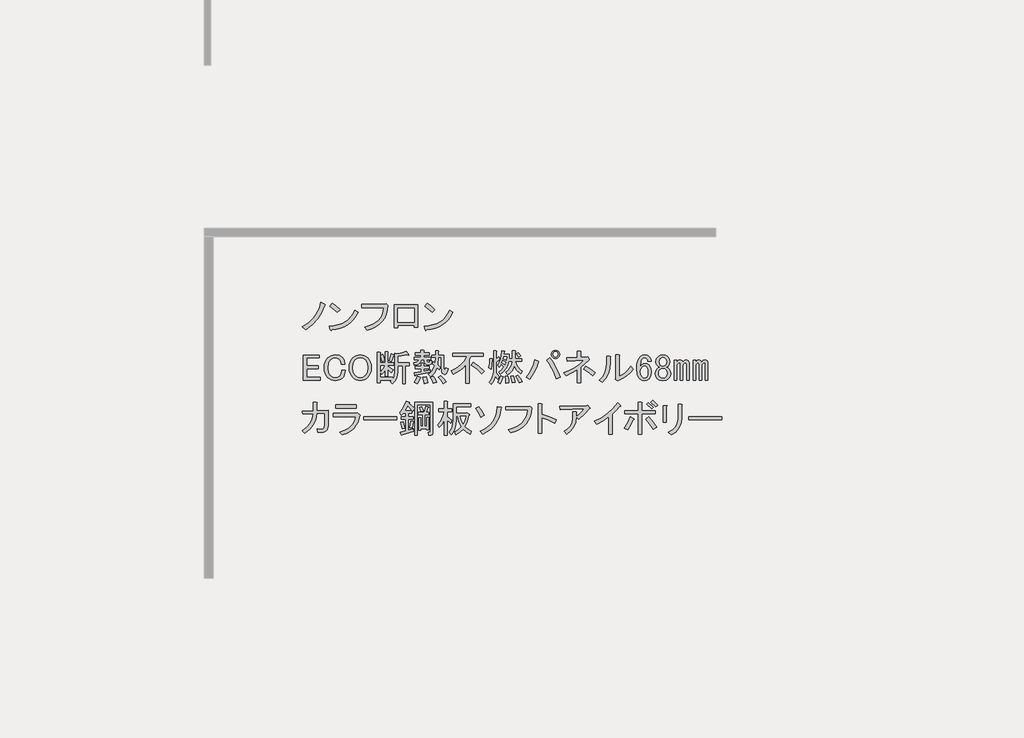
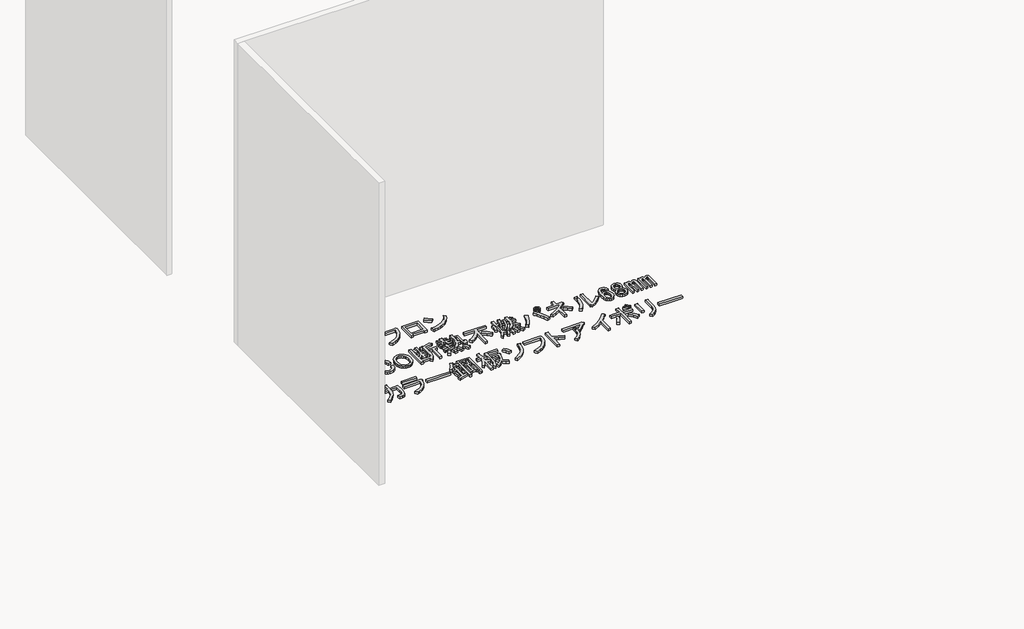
# One storey, part 92 of 117: 1 proxy.
"""IFC4 building model written with IfcOpenShell, lengths in millimetres."""

from ifc_helpers import new_model, si_unit, frame, origin, place, context, project, spatial, polyline, outline, extrude, element, save

model = new_model("IFC4")

# Units and contexts
model_context = context("Model", 3, world=origin())
ifc_project = project(units=[si_unit("LENGTHUNIT", "METRE", prefix="MILLI")], contexts=[model_context])

# Site, building, storey
site = spatial("IfcSite", under=ifc_project)
building = spatial("IfcBuilding", under=site)
storey = spatial("IfcBuildingStorey", under=building, Name="レベル 1", Elevation=500.0)

# Proxy
placement = place(None, origin())
element("IfcBuildingElementProxy", 1, Name="200㎜\u3000MS Pゴシック", ObjectType="200㎜\u3000MS Pゴシック", at=placement, inside=storey, context=model_context, shape_type="SweptSolid", body=[
    extrude(outline(polyline([(24939.1706985, 3397.4503118), (24913.5952502, 3337.6784775), (24885.146156, 3291.7001434), (24843.4782907, 3246.2965385), (24794.3389462, 3208.939142), (24766.7519457, 3230.7788507), (24814.4544673, 3261.2394971), (24854.1107805, 3299.7463519), (24871.4963381, 3323.6694538), (24886.8703435, 3351.7593423), (24900.2327969, 3384.0160173), (24911.5836981, 3420.4394788), (24942.6190736, 3406.6459786), (24945.7800841, 3402.0481452), (24939.1706985, 3397.4503118)])), frame((0.0, 0.0, 500.0), z_axis=(0.0, 0.0, 1.0), x_axis=(1.0, 0.0, 0.0)), (0.0, 0.0, 1.0), 25.0),
    extrude(outline(polyline([(25038.8977052, 3342.2763109), (24980.2753292, 3389.4041033), (24999.8161212, 3413.5427287), (25027.1157571, 3393.7145721), (25060.7374138, 3364.1160196), (25038.8977052, 3342.2763109)])), frame((0.0, 0.0, 500.0), z_axis=(0.0, 0.0, 1.0), x_axis=(1.0, 0.0, 0.0)), (0.0, 0.0, 1.0), 25.0),
    extrude(outline(polyline([(25200.9713328, 3342.2763109), (25184.447869, 3312.534076), (25165.3381239, 3286.5275808), (25143.6420975, 3264.2568252), (25119.3597898, 3245.7218093), (25092.4912008, 3230.922533), (25063.0363306, 3219.8589964), (25030.995179, 3212.5311994), (24996.3677461, 3208.939142), (24990.6204544, 3200.8929336), (24984.8731626, 3206.6402253), (24975.6774958, 3236.5261425), (25011.5082679, 3239.2022252), (25044.2857912, 3245.5062859), (25074.0100658, 3255.4383244), (25100.6810916, 3268.9983409), (25124.2988687, 3286.1863354), (25144.863397, 3307.0023077), (25162.3746766, 3331.446258), (25176.8327074, 3359.5181862), (25200.9713328, 3342.2763109)])), frame((0.0, 0.0, 500.0), z_axis=(0.0, 0.0, 1.0), x_axis=(1.0, 0.0, 0.0)), (0.0, 0.0, 1.0), 25.0),
    extrude(outline(polyline([(25251.7314136, 3227.3304757), (25285.514713, 3237.0110702), (25315.0234641, 3249.3857078), (25340.257667, 3264.4543884), (25361.2173217, 3282.217112), (25377.902428, 3302.6738786), (25390.3129862, 3325.8246882), (25398.4489961, 3351.6695409), (25402.3104577, 3380.2084365), (25229.8917049, 3380.2084365), (25229.8917049, 3405.4965202), (25404.6093744, 3405.4965202), (25420.7017914, 3408.9448953), (25433.3458332, 3397.4503118), (25429.825617, 3360.9550091), (25421.5638851, 3327.9080815), (25408.5606375, 3298.3095289), (25390.8158742, 3272.1593514), (25368.3295952, 3249.457549), (25341.1018005, 3230.2041216), (25309.1324901, 3214.3990692), (25272.421664, 3202.0423919), (25251.7314136, 3227.3304757)])), frame((0.0, 0.0, 500.0), z_axis=(0.0, 0.0, 1.0), x_axis=(1.0, 0.0, 0.0)), (0.0, 0.0, 1.0), 25.0),
    extrude(outline(polyline([(25666.455987, 3228.479934), (25640.0184449, 3228.479934), (25640.0184449, 3241.1239759), (25512.4285679, 3241.1239759), (25512.4285679, 3222.7326423), (25485.9910258, 3222.7326423), (25485.9910258, 3402.0481452), (25666.455987, 3402.0481452), (25666.455987, 3228.479934)]), holes=[polyline([(25512.4285679, 3376.7600614), (25512.4285679, 3266.4120596), (25640.0184449, 3266.4120596), (25640.0184449, 3376.7600614), (25512.4285679, 3376.7600614)])]), frame((0.0, 0.0, 500.0), z_axis=(0.0, 0.0, 1.0), x_axis=(1.0, 0.0, 0.0)), (0.0, 0.0, 1.0), 25.0),
    extrude(outline(polyline([(25942.5099049, 3342.2763109), (25925.9864411, 3312.534076), (25906.876696, 3286.5275808), (25885.1806696, 3264.2568252), (25860.8983619, 3245.7218093), (25834.0297729, 3230.922533), (25804.5749026, 3219.8589964), (25772.5337511, 3212.5311994), (25737.9063182, 3208.939142), (25732.1590264, 3200.8929336), (25726.4117347, 3206.6402253), (25717.2160679, 3236.5261425), (25753.0468399, 3239.2022252), (25785.8243633, 3245.5062859), (25815.5486378, 3255.4383244), (25842.2196637, 3268.9983409), (25865.8374407, 3286.1863354), (25886.4019691, 3307.0023077), (25903.9132486, 3331.446258), (25918.3712795, 3359.5181862), (25942.5099049, 3342.2763109)])), frame((0.0, 0.0, 500.0), z_axis=(0.0, 0.0, 1.0), x_axis=(1.0, 0.0, 0.0)), (0.0, 0.0, 1.0), 25.0),
    extrude(outline(polyline([(25780.4362772, 3342.2763109), (25721.8139013, 3389.4041033), (25741.3546933, 3413.5427287), (25768.6543291, 3393.7145721), (25802.2759859, 3364.1160196), (25780.4362772, 3342.2763109)])), frame((0.0, 0.0, 500.0), z_axis=(0.0, 0.0, 1.0), x_axis=(1.0, 0.0, 0.0)), (0.0, 0.0, 1.0), 25.0),
    extrude(outline(polyline([(24772.4992375, 3008.9448953), (24898.9396562, 3008.9448953), (24898.9396562, 2987.1051866), (24798.9367796, 2987.1051866), (24798.9367796, 2926.183894), (24892.0429061, 2926.183894), (24892.0429061, 2904.3441853), (24798.9367796, 2904.3441853), (24798.9367796, 2834.2272258), (24904.686948, 2834.2272258), (24904.686948, 2812.3875171), (24772.4992375, 2812.3875171), (24772.4992375, 3008.9448953)])), frame((0.0, 0.0, 500.0), z_axis=(0.0, 0.0, 1.0), x_axis=(1.0, 0.0, 0.0)), (0.0, 0.0, 1.0), 25.0),
    extrude(outline(polyline([(24936.7798252, 2910.091477), (24938.5758538, 2934.014579), (24943.9639399, 2955.2077173), (24952.9440832, 2973.6708921), (24965.516284, 2989.4041033), (24990.5170031, 3005.7838848), (25021.8397432, 3011.243812), (25052.5877541, 3006.358614), (25075.8642858, 2991.70302), (25091.6693381, 2968.1391238), (25097.7039944, 2938.8279358), (25070.116994, 2938.8279358), (25065.231796, 2960.0929153), (25055.1740354, 2975.6106031), (25039.9437123, 2985.9557283), (25021.8397432, 2989.4041033), (25002.2989512, 2985.3809991), (24985.0570759, 2973.3116864), (24976.0050914, 2961.6015794), (24969.5393882, 2947.1615089), (24964.3668256, 2910.091477), (24969.5393882, 2873.0214452), (24976.0050914, 2858.5813746), (24985.0570759, 2846.8712677), (25001.7242221, 2835.6640487), (25021.8397432, 2831.9283091), (25042.242629, 2835.0893196), (25057.4729521, 2844.572351), (25069.5422648, 2864.1131429), (25073.5653691, 2890.550685), (25101.1523695, 2890.550685), (25094.8303486, 2855.7795699), (25087.7899162, 2841.6268639), (25078.1632025, 2829.6293924), (25067.3151893, 2821.0802959), (25054.3119417, 2814.9737984), (25021.8397432, 2810.0886004), (24990.5170031, 2815.5485276), (24965.516284, 2831.9283091), (24952.9440832, 2847.5896791), (24943.9639399, 2865.8373305), (24938.5758538, 2886.6712631), (24936.7798252, 2910.091477)])), frame((0.0, 0.0, 500.0), z_axis=(0.0, 0.0, 1.0), x_axis=(1.0, 0.0, 0.0)), (0.0, 0.0, 1.0), 25.0),
    extrude(outline(polyline([(25132.1417667, 2911.2409354), (25133.8659542, 2934.0864201), (25139.0385168, 2954.3456236), (25147.6594544, 2972.0185457), (25159.7287671, 2987.1051866), (25172.4446501, 2997.6658352), (25186.4536738, 3005.2091557), (25201.7558381, 3009.7351479), (25218.3511431, 3011.243812), (25234.946448, 3009.7351479), (25250.2486123, 3005.2091557), (25264.257636, 2997.6658352), (25276.973519, 2987.1051866), (25289.0428317, 2972.0185457), (25297.6637694, 2954.3456236), (25302.836332, 2934.0864201), (25304.5605195, 2911.2409354), (25302.836332, 2888.3954506), (25297.6637694, 2868.1362472), (25289.0428317, 2850.463325), (25276.973519, 2835.3766841), (25264.257636, 2824.8160355), (25250.2486123, 2817.2727151), (25234.946448, 2812.7467228), (25218.3511431, 2811.2380587), (25201.7558381, 2812.7467228), (25186.4536738, 2817.2727151), (25172.4446501, 2824.8160355), (25159.7287671, 2835.3766841), (25147.6594544, 2850.463325), (25139.0385168, 2868.1362472), (25133.8659542, 2888.3954506), (25132.1417667, 2911.2409354)]), holes=[polyline([(25218.3511431, 2989.4041033), (25197.6608927, 2985.0936345), (25179.2695591, 2972.162228), (25170.7204626, 2961.0268502), (25164.6139651, 2947.1615089), (25159.7287671, 2911.2409354), (25164.6139651, 2875.3203619), (25170.7204626, 2861.4550205), (25179.2695591, 2850.3196427), (25197.6608927, 2837.3882363), (25218.3511431, 2833.0777674), (25239.0413934, 2837.3882363), (25257.432727, 2850.3196427), (25265.9818235, 2861.4550205), (25272.088321, 2875.3203619), (25276.973519, 2911.2409354), (25272.088321, 2947.1615089), (25265.9818235, 2961.0268502), (25257.432727, 2972.162228), (25239.0413934, 2985.0936345), (25218.3511431, 2989.4041033)])]), frame((0.0, 0.0, 500.0), z_axis=(0.0, 0.0, 1.0), x_axis=(1.0, 0.0, 0.0)), (0.0, 0.0, 1.0), 25.0),
    extrude(outline(polyline([(25443.3691101, 2965.2654779), (25460.6109854, 3018.1405621), (25481.3012357, 3012.3932704), (25483.0254232, 3009.2322599), (25479.002319, 3006.6459786), (25461.7604437, 2958.3687278), (25443.3691101, 2965.2654779)])), frame((0.0, 0.0, 500.0), z_axis=(0.0, 0.0, 1.0), x_axis=(1.0, 0.0, 0.0)), (0.0, 0.0, 1.0), 25.0),
    extrude(outline(polyline([(25597.3965292, 3013.5427287), (25595.6723417, 3008.9448953), (25588.2008624, 3011.243812), (25511.1871528, 2998.5997701), (25511.1871528, 2949.173061), (25603.143821, 2949.173061), (25603.143821, 2927.3333523), (25572.1084455, 2927.3333523), (25572.1084455, 2787.0994334), (25549.1192785, 2787.0994334), (25549.1192785, 2927.3333523), (25511.1871528, 2927.3333523), (25511.1871528, 2877.9066432), (25508.6008716, 2850.1041193), (25500.8420277, 2825.3189236), (25487.9106212, 2803.551056), (25469.8066522, 2784.8005167), (25452.5647769, 2804.3413086), (25462.9099021, 2813.5369755), (25373.2521506, 2813.5369755), (25373.2521506, 2791.6972668), (25350.2629836, 2791.6972668), (25350.2629836, 3030.784604), (25372.1026922, 3030.784604), (25376.9878902, 3028.4856873), (25373.2521506, 3023.8878539), (25373.2521506, 2948.0236026), (25415.7821096, 2948.0236026), (25415.7821096, 3035.3824374), (25434.1734433, 3035.3824374), (25439.0586413, 3033.0835207), (25435.3229016, 3028.4856873), (25435.3229016, 2948.0236026), (25479.002319, 2948.0236026), (25479.002319, 2929.632269), (25435.3229016, 2929.632269), (25435.3229016, 2920.4366022), (25475.5539439, 2893.9990601), (25461.7604437, 2872.1593514), (25435.3229016, 2898.5968935), (25435.3229016, 2845.7218093), (25415.7821096, 2845.7218093), (25415.7821096, 2893.9990601), (25402.5633386, 2874.1709035), (25388.1951092, 2858.3658512), (25375.5510673, 2876.7571848), (25397.390776, 2900.8958102), (25414.6326513, 2929.632269), (25373.2521506, 2929.632269), (25373.2521506, 2835.3766841), (25470.9561105, 2835.3766841), (25470.9561105, 2821.5831839), (25483.887517, 2845.7218093), (25488.1979858, 2879.0561015), (25488.1979858, 3023.8878539), (25510.0376945, 3018.1405621), (25546.2456326, 3025.6120414), (25576.7062789, 3038.8308125), (25597.3965292, 3013.5427287)])), frame((0.0, 0.0, 500.0), z_axis=(0.0, 0.0, 1.0), x_axis=(1.0, 0.0, 0.0)), (0.0, 0.0, 1.0), 25.0),
    extrude(outline(polyline([(25389.3445675, 2957.2192695), (25376.7005257, 3007.7954369), (25396.2413176, 3014.6921871), (25404.0001615, 2990.5535617), (25408.8853595, 2964.1160196), (25389.3445675, 2957.2192695)])), frame((0.0, 0.0, 500.0), z_axis=(0.0, 0.0, 1.0), x_axis=(1.0, 0.0, 0.0)), (0.0, 0.0, 1.0), 25.0),
    extrude(outline(polyline([(25733.0326148, 2841.1239759), (25743.0903754, 2813.82434), (25747.9755734, 2791.6972668), (25719.2391146, 2785.949975), (25716.6528333, 2807.5023191), (25708.8939894, 2837.6756008), (25733.0326148, 2841.1239759)])), frame((0.0, 0.0, 500.0), z_axis=(0.0, 0.0, 1.0), x_axis=(1.0, 0.0, 0.0)), (0.0, 0.0, 1.0), 25.0),
    extrude(outline(polyline([(25789.356074, 2788.2488917), (25781.022501, 2812.9622463), (25767.5163654, 2834.2272258), (25788.2066157, 2842.2734343), (25805.1611264, 2820.7210902), (25816.9430745, 2797.4445585), (25789.356074, 2788.2488917)])), frame((0.0, 0.0, 500.0), z_axis=(0.0, 0.0, 1.0), x_axis=(1.0, 0.0, 0.0)), (0.0, 0.0, 1.0), 25.0),
    extrude(outline(polyline([(25688.2037391, 2836.5261425), (25691.6521141, 2831.6409445), (25685.9048224, 2828.479934), (25676.1344264, 2802.9044857), (25665.214572, 2783.6510583), (25642.225405, 2795.1456418), (25654.8694469, 2818.709538), (25665.214572, 2845.7218093), (25688.2037391, 2836.5261425)])), frame((0.0, 0.0, 500.0), z_axis=(0.0, 0.0, 1.0), x_axis=(1.0, 0.0, 0.0)), (0.0, 0.0, 1.0), 25.0),
    extrude(outline(polyline([(25720.3885729, 2973.3116864), (25695.1004892, 2973.3116864), (25690.5026558, 2955.8542877), (25680.1575306, 2942.5636755), (25664.0651137, 2933.4398498), (25642.225405, 2928.4828107), (25637.6275716, 2948.0236026), (25662.9156553, 2956.6445403), (25670.3871346, 2963.9723373), (25674.4102388, 2973.3116864), (25638.7770299, 2973.3116864), (25638.7770299, 2991.70302), (25692.8015725, 2991.70302), (25692.8015725, 3008.9448953), (25649.1221551, 3008.9448953), (25649.1221551, 3027.3362289), (25692.8015725, 3027.3362289), (25692.8015725, 3045.7275626), (25714.6412812, 3045.7275626), (25719.5264792, 3043.4286459), (25715.7907395, 3038.8308125), (25715.7907395, 3027.3362289), (25758.3206985, 3027.3362289), (25758.3206985, 3008.9448953), (25715.7907395, 3008.9448953), (25715.7907395, 2991.70302), (25768.6658237, 2991.70302), (25768.6658237, 2973.3116864), (25739.9293649, 2973.3116864), (25739.9293649, 2960.6676445), (25741.3661878, 2955.4950819), (25745.6766567, 2953.7708944), (25756.0217818, 2953.7708944), (25759.7575215, 2956.9319049), (25759.4701569, 2966.4149363), (25779.0109489, 2964.1160196), (25776.137303, 2942.5636755), (25770.8210581, 2937.1755894), (25762.9185319, 2935.3795608), (25738.7799066, 2935.3795608), (25724.9864063, 2940.2647588), (25720.3885729, 2954.9203528), (25720.3885729, 2973.3116864)])), frame((0.0, 0.0, 500.0), z_axis=(0.0, 0.0, 1.0), x_axis=(1.0, 0.0, 0.0)), (0.0, 0.0, 1.0), 25.0),
    extrude(outline(polyline([(25851.4268251, 2990.5535617), (25829.5871164, 2990.5535617), (25824.989283, 2933.0806441), (25844.5300749, 2914.6893104), (25834.1849498, 2892.8496017), (25818.0925328, 2908.9420187), (25798.8391054, 2871.2972576), (25768.6658237, 2838.8250592), (25751.4239484, 2859.5153095), (25766.5105893, 2871.4409399), (25779.585678, 2886.5275808), (25790.6492147, 2904.7752321), (25799.7011992, 2926.183894), (25782.4593239, 2941.1268525), (25790.5055324, 2958.3687278), (25804.2990326, 2948.0236026), (25806.5979493, 2990.5535617), (25779.0109489, 2990.5535617), (25779.0109489, 3008.9448953), (25806.5979493, 3008.9448953), (25806.5979493, 3043.4286459), (25828.437658, 3043.4286459), (25833.322856, 3041.1297292), (25829.5871164, 3036.5318957), (25829.5871164, 3008.9448953), (25870.967617, 3008.9448953), (25870.967617, 2912.3903937), (25874.4159921, 2888.2517683), (25877.6488437, 2886.2402162), (25880.4506484, 2889.4012267), (25884.7611173, 2911.2409354), (25904.3019092, 2904.3441853), (25899.775917, 2877.5474374), (25891.945232, 2861.5268616), (25880.8098542, 2856.2824579), (25866.3697836, 2861.8142262), (25859.8322393, 2869.1420232), (25855.1625647, 2880.780289), (25851.4268251, 2916.9882271), (25851.4268251, 2990.5535617)])), frame((0.0, 0.0, 500.0), z_axis=(0.0, 0.0, 1.0), x_axis=(1.0, 0.0, 0.0)), (0.0, 0.0, 1.0), 25.0),
    extrude(outline(polyline([(25650.2716134, 2851.4691011), (25648.2600613, 2846.5839031), (25644.5243217, 2848.020726), (25638.7770299, 2872.1593514), (25693.9510308, 2880.2055599), (25693.9510308, 2903.1947269), (25650.2716134, 2903.1947269), (25650.2716134, 2921.5860605), (25693.9510308, 2921.5860605), (25693.9510308, 2944.5752276), (25712.3423645, 2944.5752276), (25717.2275625, 2942.2763109), (25713.4918228, 2937.6784775), (25713.4918228, 2921.5860605), (25758.3206985, 2921.5860605), (25758.3206985, 2903.1947269), (25713.4918228, 2903.1947269), (25713.4918228, 2883.6539349), (25764.0679903, 2892.8496017), (25764.0679903, 2876.7571848), (25650.2716134, 2851.4691011)])), frame((0.0, 0.0, 500.0), z_axis=(0.0, 0.0, 1.0), x_axis=(1.0, 0.0, 0.0)), (0.0, 0.0, 1.0), 25.0),
    extrude(outline(polyline([(25847.97845, 2846.8712677), (25872.6918046, 2825.6062881), (25891.6578674, 2800.8929336), (25865.2203253, 2785.949975), (25845.9668979, 2815.5485276), (25827.2881997, 2835.3766841), (25847.97845, 2846.8712677)])), frame((0.0, 0.0, 500.0), z_axis=(0.0, 0.0, 1.0), x_axis=(1.0, 0.0, 0.0)), (0.0, 0.0, 1.0), 25.0),
    extrude(outline(polyline([(26166.3784135, 2862.9636846), (26127.2968295, 2901.1831748), (26085.9163289, 2930.7817274), (26102.0087458, 2951.4719777), (26145.6881632, 2923.3102481), (26187.0686638, 2884.8033933), (26166.3784135, 2862.9636846)])), frame((0.0, 0.0, 500.0), z_axis=(0.0, 0.0, 1.0), x_axis=(1.0, 0.0, 0.0)), (0.0, 0.0, 1.0), 25.0),
    extrude(outline(polyline([(25939.9351182, 3023.8878539), (26181.3213721, 3023.8878539), (26181.3213721, 2998.5997701), (26081.3184955, 2998.5997701), (26070.9733703, 2974.4611447), (26070.9733703, 2788.2488917), (26044.5358282, 2788.2488917), (26044.5358282, 2935.3795608), (26023.7018956, 2912.1030291), (26000.2816816, 2891.7001434), (25974.2751864, 2874.1709035), (25945.6824099, 2859.5153095), (25929.589993, 2885.9528516), (25969.174465, 2906.3557374), (26002.8679629, 2931.9311857), (26030.6704868, 2962.6791966), (26052.5820367, 2998.5997701), (25939.9351182, 2998.5997701), (25939.9351182, 3023.8878539)])), frame((0.0, 0.0, 500.0), z_axis=(0.0, 0.0, 1.0), x_axis=(1.0, 0.0, 0.0)), (0.0, 0.0, 1.0), 25.0),
    extrude(outline(polyline([(26353.7401249, 2789.3983501), (26354.3148541, 2816.4106213), (26351.4412082, 2844.572351), (26370.9820002, 2845.7218093), (26377.3040211, 2819.5716318), (26377.8787503, 2791.6972668), (26353.7401249, 2789.3983501)])), frame((0.0, 0.0, 500.0), z_axis=(0.0, 0.0, 1.0), x_axis=(1.0, 0.0, 0.0)), (0.0, 0.0, 1.0), 25.0),
    extrude(outline(polyline([(26334.1993329, 2841.1239759), (26325.5783953, 2810.6633296), (26311.2101659, 2783.6510583), (26291.6693739, 2796.2951002), (26305.7502387, 2821.0084547), (26315.8079993, 2849.1701844), (26334.1993329, 2841.1239759)])), frame((0.0, 0.0, 500.0), z_axis=(0.0, 0.0, 1.0), x_axis=(1.0, 0.0, 0.0)), (0.0, 0.0, 1.0), 25.0),
    extrude(outline(polyline([(26249.1394149, 2979.0589781), (26253.7372483, 2976.7600614), (26249.1394149, 2972.162228), (26247.9899565, 2932.5059149), (26242.2426647, 2898.5968935), (26223.8513311, 2911.2409354), (26229.5986229, 2945.7246859), (26230.7480812, 2982.5073532), (26249.1394149, 2979.0589781)])), frame((0.0, 0.0, 500.0), z_axis=(0.0, 0.0, 1.0), x_axis=(1.0, 0.0, 0.0)), (0.0, 0.0, 1.0), 25.0),
    extrude(outline(polyline([(26300.8650407, 2997.4503118), (26310.0607075, 2980.2084365), (26311.4975305, 2974.1737801), (26306.6123325, 2974.4611447), (26280.1747904, 2953.7708944), (26280.1747904, 2869.8604347), (26293.9682906, 2857.5037574), (26305.4628741, 2841.1239759), (26292.8188322, 2820.4337256), (26274.4274986, 2845.7218093), (26262.6455505, 2809.8012358), (26241.0932064, 2780.2026832), (26226.1502478, 2798.5940169), (26241.2368887, 2817.3445562), (26252.0130607, 2837.9629654), (26258.478764, 2860.4492444), (26260.6339984, 2884.8033933), (26260.6339984, 3042.2791875), (26279.025332, 3042.2791875), (26283.91053, 3039.9802708), (26280.1747904, 3035.3824374), (26280.1747904, 2976.7600614), (26300.8650407, 2997.4503118)])), frame((0.0, 0.0, 500.0), z_axis=(0.0, 0.0, 1.0), x_axis=(1.0, 0.0, 0.0)), (0.0, 0.0, 1.0), 25.0),
    extrude(outline(polyline([(26451.4440848, 3028.4856873), (26473.2837935, 3004.3470619), (26456.0419182, 2992.8524784), (26449.4325327, 3004.3470619), (26436.5011262, 3018.1405621), (26451.4440848, 3028.4856873)])), frame((0.0, 0.0, 500.0), z_axis=(0.0, 0.0, 1.0), x_axis=(1.0, 0.0, 0.0)), (0.0, 0.0, 1.0), 25.0),
    extrude(outline(polyline([(26461.78921, 2791.6972668), (26448.5704389, 2819.8589964), (26431.9032928, 2844.572351), (26450.2946265, 2852.6185594), (26469.2606893, 2829.6293924), (26484.778377, 2802.0423919), (26461.78921, 2791.6972668)])), frame((0.0, 0.0, 500.0), z_axis=(0.0, 0.0, 1.0), x_axis=(1.0, 0.0, 0.0)), (0.0, 0.0, 1.0), 25.0),
    extrude(outline(polyline([(26412.3625008, 2846.8712677), (26430.7538345, 2797.4445585), (26406.6152091, 2792.8467251), (26392.8217089, 2843.4228926), (26412.3625008, 2846.8712677)])), frame((0.0, 0.0, 500.0), z_axis=(0.0, 0.0, 1.0), x_axis=(1.0, 0.0, 0.0)), (0.0, 0.0, 1.0), 25.0),
    extrude(outline(polyline([(26473.2837935, 2861.8142262), (26442.5357826, 2892.2748726), (26421.5581677, 2926.183894), (26413.1527535, 2904.0568207), (26401.7300111, 2884.8033933), (26387.2899405, 2868.4236118), (26369.8325418, 2854.9174761), (26356.0390416, 2873.3088098), (26376.8729742, 2892.2030314), (26392.2469797, 2913.2524875), (26402.161058, 2936.457178), (26406.6152091, 2961.8171029), (26377.8787503, 2961.8171029), (26369.904383, 2931.2127742), (26356.3264062, 2903.7694561), (26337.1448199, 2879.4871484), (26312.3596242, 2858.3658512), (26299.7155823, 2874.4582681), (26325.5783953, 2896.0106122), (26341.096083, 2916.9882271), (26319.2563743, 2936.5290191), (26305.4628741, 2915.8387688), (26291.6693739, 2930.7817274), (26304.0978923, 2949.8196313), (26313.7964472, 2974.7485093), (26320.7650384, 3005.5683614), (26325.0036661, 3042.2791875), (26345.6939164, 3039.9802708), (26349.1422915, 3037.3939895), (26343.3949997, 3034.232979), (26341.096083, 3015.8416454), (26384.7755004, 3015.8416454), (26381.3271253, 2980.2084365), (26406.6152091, 2980.2084365), (26406.6152091, 3042.2791875), (26428.4549178, 3042.2791875), (26433.3401158, 3039.9802708), (26429.6043761, 3035.3824374), (26429.6043761, 2980.2084365), (26479.0310853, 2980.2084365), (26479.0310853, 2961.8171029), (26429.6043761, 2961.8171029), (26436.1419205, 2940.0492353), (26447.7083452, 2919.5745084), (26464.3036501, 2900.3929222), (26485.9278354, 2882.5044766), (26473.2837935, 2861.8142262)]), holes=[polyline([(26349.1422915, 2931.9311857), (26356.0390416, 2951.4719777), (26330.7509579, 2967.5643946), (26325.0036661, 2950.3225193), (26349.1422915, 2931.9311857)]), polyline([(26338.7971663, 2997.4503118), (26335.3487913, 2981.3578948), (26360.636875, 2967.5643946), (26365.2347084, 2997.4503118), (26338.7971663, 2997.4503118)])]), frame((0.0, 0.0, 500.0), z_axis=(0.0, 0.0, 1.0), x_axis=(1.0, 0.0, 0.0)), (0.0, 0.0, 1.0), 25.0),
    extrude(outline(polyline([(26698.5776305, 2988.254645), (26725.230696, 2951.5438188), (26747.7169751, 2913.8272167), (26766.0364675, 2875.1048384), (26780.1891735, 2835.3766841), (26749.153798, 2825.031559), (26733.7079514, 2868.1362472), (26716.1068704, 2906.643102), (26696.350555, 2940.5521234), (26674.4390051, 2969.8633113), (26698.5776305, 2988.254645)])), frame((0.0, 0.0, 500.0), z_axis=(0.0, 0.0, 1.0), x_axis=(1.0, 0.0, 0.0)), (0.0, 0.0, 1.0), 25.0),
    extrude(outline(polyline([(26611.2187958, 2961.8171029), (26615.2419, 2956.3571757), (26608.919879, 2951.4719777), (26596.9942486, 2916.0542922), (26581.9076078, 2882.217112), (26563.6599564, 2849.960437), (26542.2512946, 2819.2842672), (26515.8137525, 2836.5261425), (26539.018443, 2867.9925649), (26558.056347, 2901.4705394), (26572.9274644, 2936.960066), (26583.6317953, 2974.4611447), (26611.2187958, 2961.8171029)])), frame((0.0, 0.0, 500.0), z_axis=(0.0, 0.0, 1.0), x_axis=(1.0, 0.0, 0.0)), (0.0, 0.0, 1.0), 25.0),
    extrude(outline(polyline([(26744.5559646, 2982.5073532), (26731.9119227, 2984.8062699), (26721.5667975, 2991.70302), (26714.6700474, 3002.0481452), (26712.3711307, 3014.6921871), (26714.6700474, 3027.3362289), (26721.5667975, 3037.6813541), (26731.9119227, 3044.5781042), (26744.5559646, 3046.8770209), (26757.2000065, 3044.5781042), (26767.5451316, 3037.6813541), (26774.4418817, 3027.3362289), (26776.7407984, 3014.6921871), (26774.4418817, 3002.0481452), (26767.5451316, 2991.70302), (26757.2000065, 2984.8062699), (26744.5559646, 2982.5073532)]), holes=[polyline([(26744.5559646, 2994.0019367), (26752.8895376, 2995.4387597), (26759.4989232, 2999.7492285), (26763.809392, 3006.358614), (26765.2462149, 3014.6921871), (26763.809392, 3023.0257601), (26759.4989232, 3029.6351456), (26752.8895376, 3033.9456145), (26744.5559646, 3035.3824374), (26736.2223915, 3033.9456145), (26729.613006, 3029.6351456), (26725.3025372, 3023.0257601), (26723.8657143, 3014.6921871), (26725.3025372, 3006.358614), (26729.613006, 2999.7492285), (26736.2223915, 2995.4387597), (26744.5559646, 2994.0019367)])]), frame((0.0, 0.0, 500.0), z_axis=(0.0, 0.0, 1.0), x_axis=(1.0, 0.0, 0.0)), (0.0, 0.0, 1.0), 25.0),
    extrude(outline(polyline([(26988.2411352, 2992.8524784), (26995.1378853, 2995.1513951), (27007.7819272, 2977.9095198), (27008.9313856, 2971.8748634), (27003.1840938, 2969.8633113), (26939.9638844, 2913.5398521), (26939.9638844, 2792.8467251), (26913.5263423, 2792.8467251), (26913.5263423, 2895.1485184), (26873.2953, 2871.0098931), (26828.4664243, 2849.1701844), (26808.9256323, 2869.8604347), (26854.4729195, 2889.3293855), (26895.7097379, 2912.1030291), (26932.6360874, 2938.1813655), (26965.2519682, 2967.5643946), (26835.3631744, 2961.8171029), (26831.9147993, 2987.1051866), (26913.5263423, 2989.4041033), (26913.5263423, 3041.1297292), (26936.5155094, 3041.1297292), (26942.5501657, 3037.6813541), (26939.9638844, 3031.9340623), (26939.9638844, 2990.5535617), (26988.2411352, 2992.8524784)])), frame((0.0, 0.0, 500.0), z_axis=(0.0, 0.0, 1.0), x_axis=(1.0, 0.0, 0.0)), (0.0, 0.0, 1.0), 25.0),
    extrude(outline(polyline([(27034.2194693, 2849.1701844), (26997.1494375, 2878.4813723), (26964.1025098, 2899.7463519), (26981.3443851, 2921.5860605), (27020.1386045, 2898.3095289), (27053.7602613, 2872.1593514), (27034.2194693, 2849.1701844)])), frame((0.0, 0.0, 500.0), z_axis=(0.0, 0.0, 1.0), x_axis=(1.0, 0.0, 0.0)), (0.0, 0.0, 1.0), 25.0),
    extrude(outline(polyline([(27241.2139293, 2842.2734343), (27265.9991251, 2854.4864292), (27289.7785447, 2871.5846222), (27312.5521883, 2893.5680132), (27334.3200559, 2920.4366022), (27350.4124728, 2898.5968935), (27327.1359412, 2870.7943696), (27300.9857636, 2847.1586322), (27271.9619403, 2827.6896814), (27240.064471, 2812.3875171), (27230.8688042, 2807.7896837), (27212.4774705, 2821.5831839), (27214.7763872, 2827.3304757), (27214.7763872, 3012.3932704), (27238.9150126, 3012.3932704), (27244.6623044, 3008.9448953), (27241.2139293, 3003.1976035), (27241.2139293, 2842.2734343)])), frame((0.0, 0.0, 500.0), z_axis=(0.0, 0.0, 1.0), x_axis=(1.0, 0.0, 0.0)), (0.0, 0.0, 1.0), 25.0),
    extrude(outline(polyline([(27087.1865102, 2811.2380587), (27112.3309116, 2840.4774056), (27130.2911984, 2873.0214452), (27141.0673704, 2908.8701775), (27144.6594278, 2948.0236026), (27144.6594278, 2999.7492285), (27168.7980532, 2999.7492285), (27174.5453449, 2996.3008534), (27171.0969699, 2990.5535617), (27171.0969699, 2949.173061), (27167.2893891, 2903.4102504), (27155.8666467, 2862.67632), (27136.8287427, 2826.9712699), (27110.1756772, 2796.2951002), (27087.1865102, 2811.2380587)])), frame((0.0, 0.0, 500.0), z_axis=(0.0, 0.0, 1.0), x_axis=(1.0, 0.0, 0.0)), (0.0, 0.0, 1.0), 25.0),
    extrude(outline(polyline([(27379.1489316, 2906.643102), (27380.8731191, 2936.0261311), (27386.0456817, 2960.9550091), (27394.6666193, 2981.429736), (27406.735932, 2997.4503118), (27422.2536198, 3007.7954369), (27441.2196826, 3011.243812), (27461.0478392, 3007.7954369), (27476.8528915, 2997.4503118), (27488.0601104, 2980.4958011), (27491.7958501, 2959.5181862), (27465.358308, 2959.5181862), (27463.6341205, 2973.3116864), (27458.4615579, 2982.5073532), (27450.702714, 2987.6799158), (27441.2196826, 2989.4041033), (27431.7366512, 2987.6799158), (27423.9778073, 2982.5073532), (27415.9315989, 2971.5874989), (27410.1843071, 2957.2192695), (27405.5864737, 2918.1376855), (27417.0810572, 2933.0806441), (27428.5756407, 2940.8394879), (27442.3691409, 2943.4257692), (27461.3352038, 2939.9773942), (27476.8528915, 2929.632269), (27489.784298, 2908.0799249), (27494.0947668, 2877.9066432), (27489.4969334, 2846.5839031), (27475.7034332, 2823.8821006), (27459.3236516, 2813.5369755), (27437.7713075, 2810.0886004), (27417.943151, 2814.3990692), (27399.8391819, 2827.3304757), (27390.7871974, 2840.0463587), (27384.3214942, 2857.5037574), (27379.1489316, 2906.643102)]), holes=[polyline([(27440.0702242, 2922.7355189), (27429.4377345, 2920.7239668), (27420.5294323, 2914.6893104), (27411.0464009, 2899.7463519), (27407.8853904, 2880.2055599), (27411.3337654, 2856.0669345), (27421.6788906, 2838.8250592), (27430.0124637, 2832.7904028), (27438.9207659, 2830.7788507), (27448.4037973, 2832.5030383), (27456.1626412, 2837.6756008), (27463.921485, 2852.905924), (27466.5077663, 2877.9066432), (27463.921485, 2900.321081), (27456.1626412, 2914.6893104), (27448.1164327, 2920.7239668), (27440.0702242, 2922.7355189)])]), frame((0.0, 0.0, 500.0), z_axis=(0.0, 0.0, 1.0), x_axis=(1.0, 0.0, 0.0)), (0.0, 0.0, 1.0), 25.0),
    extrude(outline(polyline([(27529.7279757, 2956.0698111), (27533.7510799, 2979.0589781), (27545.8203926, 2997.4503118), (27562.2001741, 3007.7954369), (27583.7525182, 3011.243812), (27605.5922269, 3007.5080724), (27622.8341022, 2996.3008534), (27634.0413212, 2978.7716136), (27637.7770608, 2956.0698111), (27634.3286857, 2937.9658421), (27623.9835606, 2922.7355189), (27610.1900603, 2914.6893104), (27610.1900603, 2912.3903937), (27620.2478209, 2908.3672895), (27629.7308523, 2900.8958102), (27640.0759775, 2884.8033933), (27643.5243526, 2864.1131429), (27639.5012483, 2842.8481634), (27627.4319356, 2825.031559), (27609.040602, 2813.82434), (27583.7525182, 2810.0886004), (27558.4644345, 2813.82434), (27540.0731009, 2825.031559), (27528.0037882, 2842.8481634), (27523.9806839, 2864.1131429), (27527.429059, 2884.8033933), (27537.7741842, 2900.8958102), (27547.2572156, 2908.3672895), (27557.3149762, 2912.3903937), (27557.3149762, 2914.6893104), (27542.3720176, 2925.0344356), (27532.8889862, 2939.1153004), (27529.7279757, 2956.0698111)]), holes=[polyline([(27583.7525182, 2990.5535617), (27573.1200285, 2988.5420096), (27564.2117263, 2982.5073532), (27557.3149762, 2971.3001343), (27555.0160594, 2956.0698111), (27557.3149762, 2941.7015817), (27564.2117263, 2930.7817274), (27572.8326639, 2924.747071), (27582.6030599, 2922.7355189), (27594.6723726, 2924.4597064), (27603.2933102, 2929.632269), (27610.1900603, 2940.8394879), (27612.488977, 2956.0698111), (27610.1900603, 2971.3001343), (27603.2933102, 2982.5073532), (27594.385008, 2988.5420096), (27583.7525182, 2990.5535617)]), polyline([(27583.7525182, 2903.1947269), (27570.2463826, 2900.8958102), (27559.6138929, 2893.9990601), (27552.7171427, 2882.7918412), (27550.418226, 2867.561518), (27553.0045073, 2852.0438302), (27560.7633512, 2839.9745175), (27571.1084764, 2833.0777674), (27583.7525182, 2830.7788507), (27596.3965601, 2833.0777674), (27606.7416853, 2839.9745175), (27614.5005292, 2852.0438302), (27617.0868105, 2867.561518), (27614.5005292, 2883.0792058), (27606.7416853, 2895.1485184), (27596.9712893, 2901.1831748), (27583.7525182, 2903.1947269)])]), frame((0.0, 0.0, 500.0), z_axis=(0.0, 0.0, 1.0), x_axis=(1.0, 0.0, 0.0)), (0.0, 0.0, 1.0), 25.0),
    extrude(outline(polyline([(27691.8016033, 2811.2380587), (27672.2608114, 2811.2380587), (27672.2608114, 2968.713853), (27691.8016033, 2968.713853), (27691.8016033, 2951.4719777), (27703.870916, 2966.9896654), (27717.0896871, 2972.162228), (27726.2853539, 2970.7254051), (27733.182104, 2966.4149363), (27740.0788541, 2952.621436), (27753.0102606, 2967.27703), (27766.5163962, 2972.162228), (27774.8499693, 2970.7254051), (27781.4593548, 2966.4149363), (27786.6319174, 2957.7939986), (27788.3561049, 2945.7246859), (27788.3561049, 2811.2380587), (27768.8153129, 2811.2380587), (27768.8153129, 2935.3795608), (27766.2290316, 2944.8625922), (27758.4701878, 2948.0236026), (27748.1250626, 2943.4257692), (27742.0904062, 2934.8048316), (27740.0788541, 2925.0344356), (27740.0788541, 2811.2380587), (27720.5380621, 2811.2380587), (27720.5380621, 2935.3795608), (27717.9517808, 2944.8625922), (27710.192937, 2948.0236026), (27699.8478118, 2943.4257692), (27693.8131555, 2934.8048316), (27691.8016033, 2925.0344356), (27691.8016033, 2811.2380587)])), frame((0.0, 0.0, 500.0), z_axis=(0.0, 0.0, 1.0), x_axis=(1.0, 0.0, 0.0)), (0.0, 0.0, 1.0), 25.0),
    extrude(outline(polyline([(27913.6470653, 2972.162228), (27921.9806383, 2970.7254051), (27928.5900239, 2966.4149363), (27933.7625864, 2957.7939986), (27935.486774, 2945.7246859), (27935.486774, 2811.2380587), (27915.945982, 2811.2380587), (27915.945982, 2935.3795608), (27913.3597007, 2944.8625922), (27905.6008568, 2948.0236026), (27895.2557317, 2943.4257692), (27889.2210753, 2934.8048316), (27887.2095232, 2925.0344356), (27887.2095232, 2811.2380587), (27867.6687312, 2811.2380587), (27867.6687312, 2935.3795608), (27865.0824499, 2944.8625922), (27857.323606, 2948.0236026), (27846.9784809, 2943.4257692), (27840.9438245, 2934.8048316), (27838.9322724, 2925.0344356), (27838.9322724, 2811.2380587), (27819.3914804, 2811.2380587), (27819.3914804, 2968.713853), (27838.9322724, 2968.713853), (27838.9322724, 2951.4719777), (27851.0015851, 2966.9896654), (27864.2203561, 2972.162228), (27873.416023, 2970.7254051), (27880.3127731, 2966.4149363), (27887.2095232, 2952.621436), (27900.1409296, 2967.27703), (27913.6470653, 2972.162228)])), frame((0.0, 0.0, 500.0), z_axis=(0.0, 0.0, 1.0), x_axis=(1.0, 0.0, 0.0)), (0.0, 0.0, 1.0), 25.0),
    extrude(outline(polyline([(24942.6190736, 2553.7708944), (24877.0999475, 2551.4719777), (24868.8382156, 2505.206279), (24850.94977, 2464.1131429), (24823.4346107, 2428.1925694), (24786.2927377, 2397.4445585), (24766.7519457, 2416.9853505), (24801.7385843, 2445.2189213), (24827.3858738, 2477.0445494), (24843.6938142, 2512.4622349), (24850.6624054, 2551.4719777), (24769.0508624, 2549.173061), (24766.7519457, 2572.162228), (24851.8118638, 2574.4611447), (24851.8118638, 2638.8308125), (24875.9504892, 2638.8308125), (24882.8472393, 2635.3824374), (24878.2494059, 2629.6351456), (24878.2494059, 2574.4611447), (24969.0566157, 2577.9095198), (24969.0566157, 2506.643102), (24966.4703344, 2458.6532158), (24958.7114905, 2427.3304757), (24952.102105, 2417.2727151), (24942.6190736, 2410.0886004), (24930.2623963, 2405.7781316), (24915.0320731, 2404.3413086), (24887.4450727, 2404.3413086), (24883.9966976, 2433.0777674), (24913.8826148, 2430.7788507), (24927.9634796, 2433.6524966), (24935.7223235, 2442.2734343), (24940.8948861, 2467.561518), (24942.6190736, 2506.643102), (24942.6190736, 2553.7708944)])), frame((0.0, 0.0, 500.0), z_axis=(0.0, 0.0, 1.0), x_axis=(1.0, 0.0, 0.0)), (0.0, 0.0, 1.0), 25.0),
    extrude(outline(polyline([(25057.4729521, 2407.7896837), (25107.1151847, 2426.1091762), (25127.3564279, 2438.2323697), (25144.5444223, 2452.3311948), (25158.679168, 2468.4056515), (25169.7606649, 2486.4557397), (25177.7889131, 2506.4814594), (25182.7639125, 2528.4828107), (25008.046243, 2528.4828107), (25008.046243, 2553.7708944), (25183.9133709, 2553.7708944), (25194.258496, 2557.2192695), (25214.9487464, 2544.5752276), (25217.8223922, 2539.1153004), (25212.6498297, 2534.2301024), (25206.5253719, 2506.7508637), (25197.3476653, 2481.7860651), (25185.1167101, 2459.3357067), (25169.832506, 2439.3997884), (25151.4950533, 2421.9783102), (25130.1043517, 2407.0712722), (25105.6604015, 2394.6786744), (25078.1632025, 2384.8005167), (25057.4729521, 2407.7896837)])), frame((0.0, 0.0, 500.0), z_axis=(0.0, 0.0, 1.0), x_axis=(1.0, 0.0, 0.0)), (0.0, 0.0, 1.0), 25.0),
    extrude(outline(polyline([(25187.3617459, 2594.0019367), (25028.7364933, 2594.0019367), (25028.7364933, 2619.2900205), (25187.3617459, 2619.2900205), (25187.3617459, 2594.0019367)])), frame((0.0, 0.0, 500.0), z_axis=(0.0, 0.0, 1.0), x_axis=(1.0, 0.0, 0.0)), (0.0, 0.0, 1.0), 25.0),
    extrude(outline(polyline([(25246.3979269, 2503.1947269), (25246.3979269, 2528.4828107), (25502.7271394, 2528.4828107), (25502.7271394, 2503.1947269), (25246.3979269, 2503.1947269)])), frame((0.0, 0.0, 500.0), z_axis=(0.0, 0.0, 1.0), x_axis=(1.0, 0.0, 0.0)), (0.0, 0.0, 1.0), 25.0),
    extrude(outline(polyline([(25630.0411464, 2569.8633113), (25588.6606458, 2613.5427287), (25566.8209371, 2574.4611447), (25621.994938, 2574.4611447), (25621.994938, 2556.0698111), (25595.5573959, 2556.0698111), (25595.5573959, 2527.3333523), (25633.4895215, 2527.3333523), (25633.4895215, 2508.9420187), (25595.5573959, 2508.9420187), (25595.5573959, 2421.5831839), (25634.6389799, 2431.9283091), (25636.9378966, 2412.3875171), (25544.9812284, 2387.0994334), (25542.6823117, 2381.3521416), (25538.0844783, 2384.8005167), (25531.1877282, 2407.7896837), (25576.0166039, 2416.9853505), (25576.0166039, 2508.9420187), (25538.0844783, 2508.9420187), (25538.0844783, 2527.3333523), (25576.0166039, 2527.3333523), (25576.0166039, 2556.0698111), (25554.1768952, 2556.0698111), (25539.2339366, 2537.6784775), (25526.5898948, 2558.3687278), (25554.7516244, 2596.0134888), (25579.464979, 2646.8770209), (25601.3046876, 2641.1297292), (25604.7530627, 2637.3939895), (25599.0057709, 2635.3824374), (25597.8563126, 2631.9340623), (25642.6851883, 2594.0019367), (25630.0411464, 2569.8633113)])), frame((0.0, 0.0, 500.0), z_axis=(0.0, 0.0, 1.0), x_axis=(1.0, 0.0, 0.0)), (0.0, 0.0, 1.0), 25.0),
    extrude(outline(polyline([(25697.8591892, 2606.6459786), (25705.0433039, 2591.4156554), (25710.5032311, 2571.0127697), (25693.2613558, 2565.2654779), (25681.7667723, 2602.0481452), (25697.8591892, 2606.6459786)])), frame((0.0, 0.0, 500.0), z_axis=(0.0, 0.0, 1.0), x_axis=(1.0, 0.0, 0.0)), (0.0, 0.0, 1.0), 25.0),
    extrude(outline(polyline([(25750.7342734, 2605.4965202), (25753.3205547, 2602.0481452), (25747.2858984, 2598.5997701), (25734.6418565, 2560.6676445), (25755.3321068, 2560.6676445), (25755.3321068, 2542.2763109), (25724.2967313, 2542.2763109), (25724.2967313, 2453.7680178), (25739.2396899, 2453.7680178), (25739.2396899, 2521.5860605), (25755.3321068, 2521.5860605), (25755.3321068, 2427.3304757), (25739.2396899, 2427.3304757), (25739.2396899, 2435.3766841), (25693.2613558, 2435.3766841), (25693.2613558, 2422.7326423), (25677.1689389, 2422.7326423), (25677.1689389, 2519.2871438), (25693.2613558, 2519.2871438), (25693.2613558, 2453.7680178), (25708.2043144, 2453.7680178), (25708.2043144, 2542.2763109), (25672.5711055, 2542.2763109), (25672.5711055, 2560.6676445), (25718.5494396, 2560.6676445), (25728.8945647, 2610.0943537), (25750.7342734, 2605.4965202)])), frame((0.0, 0.0, 500.0), z_axis=(0.0, 0.0, 1.0), x_axis=(1.0, 0.0, 0.0)), (0.0, 0.0, 1.0), 25.0),
    extrude(outline(polyline([(25644.984105, 2638.8308125), (25785.218024, 2638.8308125), (25785.218024, 2398.5940169), (25781.4822843, 2387.3867979), (25770.2750654, 2383.6510583), (25754.1826485, 2383.6510583), (25749.5848151, 2405.490767), (25761.0793986, 2405.490767), (25764.5277736, 2406.6402253), (25765.677232, 2410.0886004), (25765.677232, 2620.4394788), (25664.524897, 2620.4394788), (25664.524897, 2381.3521416), (25644.984105, 2381.3521416), (25644.984105, 2638.8308125)])), frame((0.0, 0.0, 500.0), z_axis=(0.0, 0.0, 1.0), x_axis=(1.0, 0.0, 0.0)), (0.0, 0.0, 1.0), 25.0),
    extrude(outline(polyline([(25633.4895215, 2490.550685), (25636.0758028, 2487.3896746), (25632.3400632, 2484.8033933), (25624.2938547, 2437.6756008), (25605.9025211, 2439.9745175), (25611.6498128, 2493.9990601), (25633.4895215, 2490.550685)])), frame((0.0, 0.0, 500.0), z_axis=(0.0, 0.0, 1.0), x_axis=(1.0, 0.0, 0.0)), (0.0, 0.0, 1.0), 25.0),
    extrude(outline(polyline([(25556.4758119, 2489.4012267), (25567.9703954, 2437.6756008), (25547.2801451, 2431.9283091), (25535.7855616, 2483.6539349), (25556.4758119, 2489.4012267)])), frame((0.0, 0.0, 500.0), z_axis=(0.0, 0.0, 1.0), x_axis=(1.0, 0.0, 0.0)), (0.0, 0.0, 1.0), 25.0),
    extrude(outline(polyline([(25956.4873184, 2410.0886004), (25985.2237772, 2427.3304757), (26007.0634859, 2449.1701844), (25989.2468815, 2491.1254142), (25979.4764855, 2531.9311857), (25966.8324436, 2531.9311857), (25966.8324436, 2507.7925603), (25964.3898446, 2466.0528539), (25957.0620476, 2431.6409445), (25944.8490526, 2404.5568321), (25927.7508596, 2384.8005167), (25913.9573594, 2407.7896837), (25927.0324482, 2425.1752413), (25936.3717973, 2447.4459968), (25941.9754067, 2474.6019504), (25943.8432766, 2506.643102), (25943.8432766, 2627.3362289), (26080.6288204, 2627.3362289), (26080.6288204, 2605.4965202), (25966.8324436, 2605.4965202), (25966.8324436, 2553.7708944), (26046.1450699, 2553.7708944), (26051.8923616, 2559.5181862), (26071.4331536, 2545.7246859), (26072.8699766, 2541.9889463), (26067.9847786, 2537.6784775), (26055.6281013, 2491.1254142), (26036.9494031, 2450.3196427), (26055.9154659, 2431.9283091), (26087.5255706, 2413.5369755), (26078.3299037, 2389.3983501), (26050.4555387, 2405.490767), (26022.0064445, 2430.7788507), (25997.5804545, 2406.3528608), (25965.6829852, 2385.949975), (25956.4873184, 2410.0886004)]), holes=[polyline([(26001.3161942, 2531.9311857), (26009.3624026, 2498.8842581), (26022.0064445, 2471.0098931), (26034.6504864, 2497.1600706), (26042.6966948, 2531.9311857), (26001.3161942, 2531.9311857)])]), frame((0.0, 0.0, 500.0), z_axis=(0.0, 0.0, 1.0), x_axis=(1.0, 0.0, 0.0)), (0.0, 0.0, 1.0), 25.0),
    extrude(outline(polyline([(25873.7263171, 2381.3521416), (25873.7263171, 2500.8958102), (25855.9097126, 2466.6994242), (25836.9436498, 2444.572351), (25825.4490663, 2465.2626013), (25842.6909416, 2487.9644037), (25856.4844418, 2512.3903937), (25866.829567, 2538.5405712), (25873.7263171, 2566.4149363), (25832.3458164, 2566.4149363), (25832.3458164, 2588.254645), (25873.7263171, 2588.254645), (25873.7263171, 2648.0264793), (25895.5660258, 2648.0264793), (25900.4512238, 2645.7275626), (25896.7154841, 2641.1297292), (25896.7154841, 2588.254645), (25934.6476097, 2588.254645), (25934.6476097, 2566.4149363), (25896.7154841, 2566.4149363), (25896.7154841, 2526.183894), (25934.6476097, 2499.7463519), (25924.3024846, 2476.7571848), (25896.7154841, 2499.7463519), (25896.7154841, 2381.3521416), (25873.7263171, 2381.3521416)])), frame((0.0, 0.0, 500.0), z_axis=(0.0, 0.0, 1.0), x_axis=(1.0, 0.0, 0.0)), (0.0, 0.0, 1.0), 25.0),
    extrude(outline(polyline([(26254.1970316, 2487.10231), (26266.3381855, 2507.9362426), (26276.3241049, 2534.8048316), (26284.1547899, 2567.7080769), (26289.8302405, 2606.6459786), (26318.5666993, 2602.0481452), (26323.4518973, 2598.3124055), (26317.417241, 2591.70302), (26312.1728372, 2556.3571757), (26303.3363762, 2523.8849772), (26290.9078577, 2494.2864247), (26274.8872819, 2467.561518), (26258.794865, 2448.5954552), (26236.9551563, 2429.6293924), (26176.0338637, 2391.6972668), (26155.3436133, 2412.3875171), (26186.0916242, 2428.2644106), (26212.8165309, 2446.0091739), (26235.5183334, 2465.621807), (26254.1970316, 2487.10231)])), frame((0.0, 0.0, 500.0), z_axis=(0.0, 0.0, 1.0), x_axis=(1.0, 0.0, 0.0)), (0.0, 0.0, 1.0), 25.0),
    extrude(outline(polyline([(26159.9414467, 2525.0344356), (26139.538561, 2564.4033842), (26119.7104044, 2592.8524784), (26144.9984882, 2606.6459786), (26165.1140093, 2577.9095198), (26186.3789888, 2539.9773942), (26159.9414467, 2525.0344356)])), frame((0.0, 0.0, 500.0), z_axis=(0.0, 0.0, 1.0), x_axis=(1.0, 0.0, 0.0)), (0.0, 0.0, 1.0), 25.0),
    extrude(outline(polyline([(26375.8097253, 2427.3304757), (26409.5930246, 2437.0110702), (26439.1017758, 2449.3857078), (26464.3359786, 2464.4543884), (26485.2956333, 2482.217112), (26501.9807397, 2502.6738786), (26514.3912978, 2525.8246882), (26522.5273077, 2551.6695409), (26526.3887694, 2580.2084365), (26353.9700166, 2580.2084365), (26353.9700166, 2605.4965202), (26528.6876861, 2605.4965202), (26544.780103, 2608.9448953), (26557.4241449, 2597.4503118), (26553.9039287, 2560.9550091), (26545.6421968, 2527.9080815), (26532.6389492, 2498.3095289), (26514.8941859, 2472.1593514), (26492.4079068, 2449.457549), (26465.1801121, 2430.2041216), (26433.2108017, 2414.3990692), (26396.4999756, 2402.0423919), (26375.8097253, 2427.3304757)])), frame((0.0, 0.0, 500.0), z_axis=(0.0, 0.0, 1.0), x_axis=(1.0, 0.0, 0.0)), (0.0, 0.0, 1.0), 25.0),
    extrude(outline(polyline([(26637.6563378, 2546.8741443), (26694.2671617, 2527.9080815), (26751.4527147, 2503.1947269), (26737.6592145, 2476.7571848), (26682.197849, 2502.6199977), (26637.6563378, 2518.1376855), (26637.6563378, 2398.5940169), (26611.2187958, 2398.5940169), (26611.2187958, 2628.4856873), (26634.2079628, 2628.4856873), (26641.9668067, 2625.6120414), (26637.6563378, 2619.2900205), (26637.6563378, 2546.8741443)])), frame((0.0, 0.0, 500.0), z_axis=(0.0, 0.0, 1.0), x_axis=(1.0, 0.0, 0.0)), (0.0, 0.0, 1.0), 25.0),
    extrude(outline(polyline([(26905.9399172, 2526.183894), (26902.1323364, 2484.9470756), (26888.4106773, 2448.5954552), (26864.77494, 2417.1290328), (26831.2251243, 2390.5478084), (26811.6843323, 2412.3875171), (26841.3547261, 2432.6467206), (26862.5478644, 2456.6416637), (26875.2637474, 2484.3723464), (26879.5023751, 2515.8387688), (26879.5023751, 2565.2654779), (26903.6410005, 2565.2654779), (26909.3882923, 2562.6791966), (26905.9399172, 2557.2192695), (26905.9399172, 2527.3333523), (26942.4352199, 2558.0813632), (26969.1601266, 2588.254645), (26781.7984152, 2581.3578948), (26779.4994985, 2607.7954369), (26988.7009186, 2613.5427287), (26996.747127, 2615.8416454), (27013.9890023, 2595.1513951), (27014.2763669, 2591.9903846), (27008.2417105, 2591.70302), (26970.3095849, 2548.3109672), (26925.4807092, 2507.7925603), (26905.9399172, 2526.183894)])), frame((0.0, 0.0, 500.0), z_axis=(0.0, 0.0, 1.0), x_axis=(1.0, 0.0, 0.0)), (0.0, 0.0, 1.0), 25.0),
    extrude(outline(polyline([(27047.7830779, 2492.8496017), (27104.4657428, 2520.7239668), (27153.8206108, 2553.7708944), (27195.8476818, 2591.9903846), (27230.5469558, 2635.3824374), (27252.3866645, 2616.9911038), (27254.9729458, 2610.9564474), (27244.3404561, 2606.6459786), (27219.3397369, 2577.6221552), (27188.0169968, 2548.0236026), (27188.0169968, 2391.6972668), (27161.5794547, 2391.6972668), (27161.5794547, 2526.183894), (27117.9000373, 2496.5853414), (27067.3238698, 2469.8604347), (27047.7830779, 2492.8496017)])), frame((0.0, 0.0, 500.0), z_axis=(0.0, 0.0, 1.0), x_axis=(1.0, 0.0, 0.0)), (0.0, 0.0, 1.0), 25.0),
    extrude(outline(polyline([(27471.8412531, 2526.183894), (27508.0491912, 2484.2286641), (27533.9120041, 2445.7218093), (27508.6239204, 2428.479934), (27481.8990137, 2469.5730701), (27450.0015444, 2507.7925603), (27471.8412531, 2526.183894)])), frame((0.0, 0.0, 500.0), z_axis=(0.0, 0.0, 1.0), x_axis=(1.0, 0.0, 0.0)), (0.0, 0.0, 1.0), 25.0),
    extrude(outline(polyline([(27416.6672522, 2575.6106031), (27522.4174206, 2575.6106031), (27522.4174206, 2550.3225193), (27416.6672522, 2550.3225193), (27416.6672522, 2390.5478084), (27390.2297101, 2390.5478084), (27390.2297101, 2550.3225193), (27286.7784584, 2550.3225193), (27286.7784584, 2575.6106031), (27390.2297101, 2575.6106031), (27390.2297101, 2639.9802708), (27414.3683355, 2639.9802708), (27421.2650856, 2636.5318957), (27416.6672522, 2630.784604), (27416.6672522, 2575.6106031)])), frame((0.0, 0.0, 500.0), z_axis=(0.0, 0.0, 1.0), x_axis=(1.0, 0.0, 0.0)), (0.0, 0.0, 1.0), 25.0),
    extrude(outline(polyline([(27355.7459595, 2512.3903937), (27358.0448762, 2507.5051957), (27351.1481261, 2504.3441853), (27331.6073341, 2465.5499659), (27307.4687088, 2425.031559), (27282.180625, 2438.8250592), (27308.6181671, 2481.3550182), (27330.4578758, 2526.183894), (27355.7459595, 2512.3903937)])), frame((0.0, 0.0, 500.0), z_axis=(0.0, 0.0, 1.0), x_axis=(1.0, 0.0, 0.0)), (0.0, 0.0, 1.0), 25.0),
    extrude(outline(polyline([(27494.8304201, 2588.254645), (27456.8982945, 2623.8878539), (27470.6917947, 2637.6813541), (27508.6239204, 2603.1976035), (27494.8304201, 2588.254645)])), frame((0.0, 0.0, 500.0), z_axis=(0.0, 0.0, 1.0), x_axis=(1.0, 0.0, 0.0)), (0.0, 0.0, 1.0), 25.0),
    extrude(outline(polyline([(27527.015254, 2604.3470619), (27489.0831284, 2642.2791875), (27504.026087, 2654.9232294), (27541.9582126, 2618.1405621), (27527.015254, 2604.3470619)])), frame((0.0, 0.0, 500.0), z_axis=(0.0, 0.0, 1.0), x_axis=(1.0, 0.0, 0.0)), (0.0, 0.0, 1.0), 25.0),
    extrude(outline(polyline([(27729.5498156, 2510.091477), (27724.5209353, 2470.004117), (27709.4342945, 2435.9514133), (27684.289893, 2407.933366), (27649.087731, 2385.949975), (27626.0985639, 2405.490767), (27659.361015, 2425.031559), (27683.284117, 2449.1701844), (27697.8678698, 2477.9066432), (27703.1122735, 2511.2409354), (27703.1122735, 2626.1867706), (27727.2508989, 2626.1867706), (27733.5729199, 2622.7383955), (27729.5498156, 2616.9911038), (27729.5498156, 2510.091477)])), frame((0.0, 0.0, 500.0), z_axis=(0.0, 0.0, 1.0), x_axis=(1.0, 0.0, 0.0)), (0.0, 0.0, 1.0), 25.0),
    extrude(outline(polyline([(27611.1556054, 2484.8033933), (27584.7180633, 2484.8033933), (27584.7180633, 2614.6921871), (27610.006147, 2614.6921871), (27616.0408034, 2611.8185412), (27611.1556054, 2605.4965202), (27611.1556054, 2484.8033933)])), frame((0.0, 0.0, 500.0), z_axis=(0.0, 0.0, 1.0), x_axis=(1.0, 0.0, 0.0)), (0.0, 0.0, 1.0), 25.0),
    extrude(outline(polyline([(27785.8732749, 2503.1947269), (27785.8732749, 2528.4828107), (28042.2024874, 2528.4828107), (28042.2024874, 2503.1947269), (27785.8732749, 2503.1947269)])), frame((0.0, 0.0, 500.0), z_axis=(0.0, 0.0, 1.0), x_axis=(1.0, 0.0, 0.0)), (0.0, 0.0, 1.0), 25.0),
])

save(model, "model.ifc")
